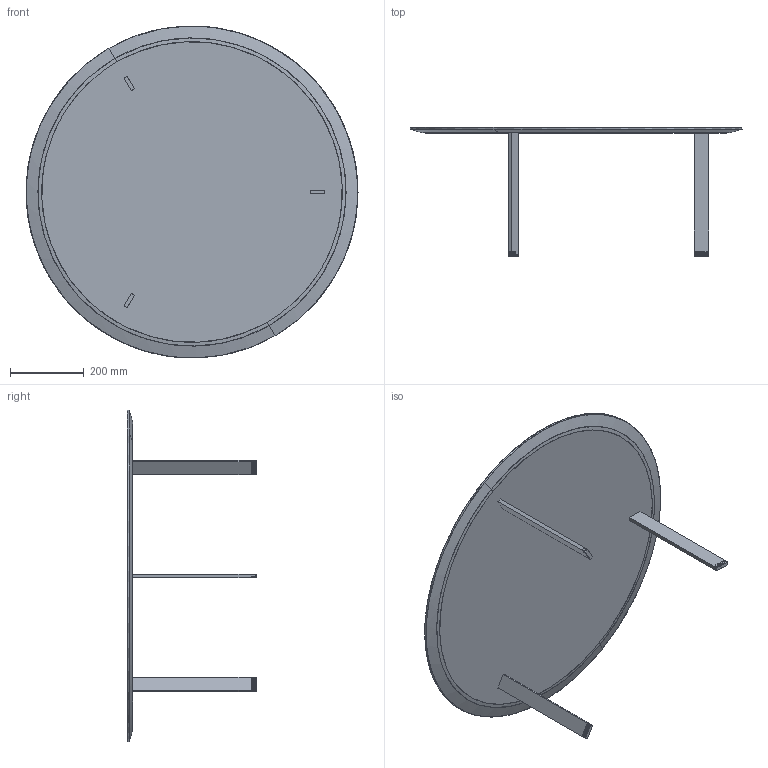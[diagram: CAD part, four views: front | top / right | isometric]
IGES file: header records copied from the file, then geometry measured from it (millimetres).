
Start section: SolidWorks IGES file using NURBS representation for surfaces
Global section: file name: G:\Recover\PRODUCTOS\29-RYUTARO\04-MODELADOS (PLANOS)\3D para WEB\IGS\90d35h.IGS; native system: SolidWorks 2009; preprocessor: SolidWorks 2009; author: RUBEN; date: 110629.132320; units: millimetre
Bounding box: 900 x 350 x 899.66 mm (x, y, z)
Surface area: 1404700.7 mm2 (no closed solid volume)
Topology: 0 solids, 0 shells, 200 faces, 992 edges, 968 vertices
Faces by surface type: bspline 200
